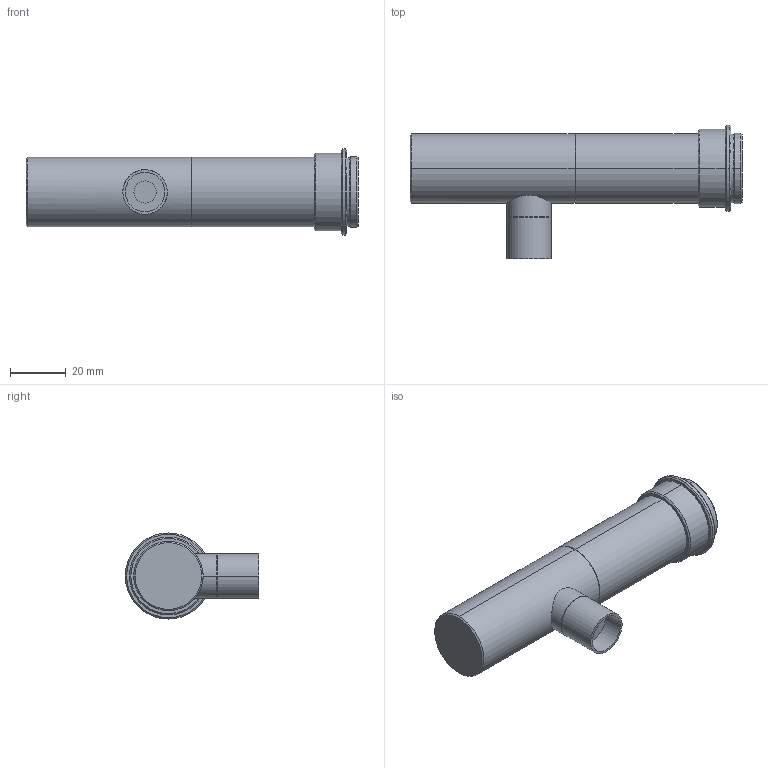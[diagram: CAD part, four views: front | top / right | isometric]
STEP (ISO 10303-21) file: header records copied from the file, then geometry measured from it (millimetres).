
FILE_DESCRIPTION (( 'STEP AP203' ), '1' );
FILE_NAME ('VS-TCM3-50CO.STEP', '2016-07-15T00:26:23', ( 'miura_vst' ), ( '' ), 'SwSTEP 2.0', 'SolidWorks 2016', '' );
FILE_SCHEMA (( 'CONFIG_CONTROL_DESIGN' ));
Length unit declared in the file: millimetre
Products named in the file (1): VS-TCM3-50CO
Bounding box: 119.5 x 48 x 31 mm (x, y, z)
Volume: 62977.3 mm3; surface area: 12542.7 mm2
Topology: 1 solids, 1 shells, 48 faces, 94 edges, 54 vertices
Faces by surface type: cylinder 20, cone 20, plane 8
Entity records: 1387 total; most frequent: CARTESIAN_POINT 289, DIRECTION 242, ORIENTED_EDGE 188, AXIS2_PLACEMENT_3D 101, EDGE_CURVE 94, EDGE_LOOP 54, VERTEX_POINT 54, CIRCLE 52
